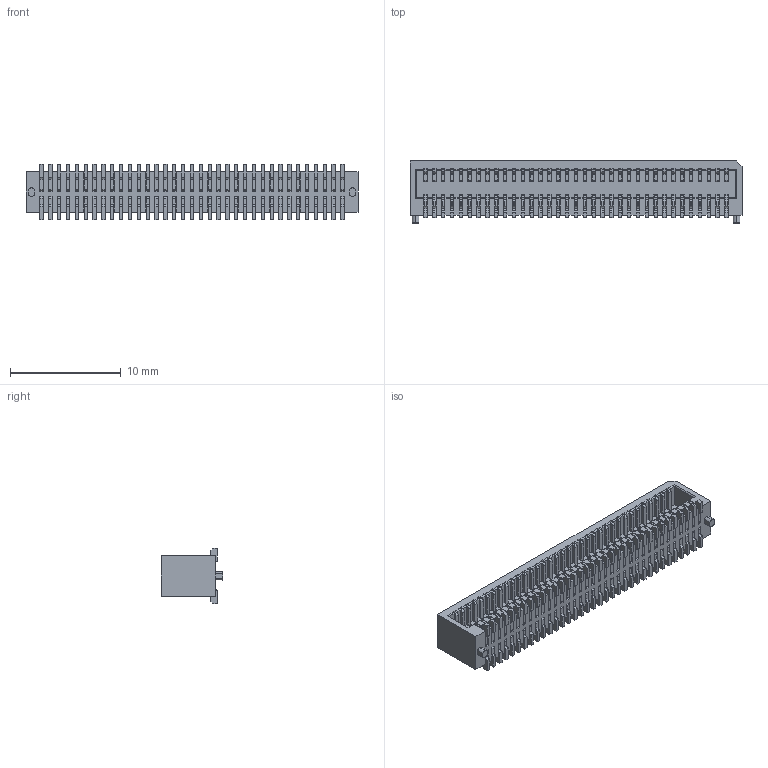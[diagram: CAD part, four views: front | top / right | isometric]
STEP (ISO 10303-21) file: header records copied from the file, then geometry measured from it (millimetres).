
FILE_DESCRIPTION (( 'STEP AP203' ), '1' );
FILE_NAME ('HC-PBB08-1-70-F-S-H5.1-XX-R-P-06 (BTB0.8 单槽 母座 立式侧插 座高5.1mm 编带 带柱)-HCTL.STEP', '2025-12-09T09:31:11', ( '' ), ( '' ), 'SwSTEP 2.0', 'SolidWorks 2025', '' );
FILE_SCHEMA (( 'CONFIG_CONTROL_DESIGN' ));
Products named in the file (1): HC-PBB08-1-70-F-S-H5.1-XX-R-P-06 (BTB0.8 单槽 母座 立式侧插 座高5.1mm 编带 带柱)-HCTL
Bounding box: 30 x 5.6 x 4.97 mm (x, y, z)
Volume: 395.2 mm3; surface area: 1770.1 mm2
Topology: 1 solids, 1 shells, 2442 faces, 7555 edges, 5012 vertices
Faces by surface type: plane 1911, cylinder 531
Entity records: 83666 total; most frequent: CARTESIAN_POINT 15430, ORIENTED_EDGE 15110, DIRECTION 13363, EDGE_CURVE 7555, LINE 6353, VECTOR 6353, VERTEX_POINT 5012, AXIS2_PLACEMENT_3D 3505
